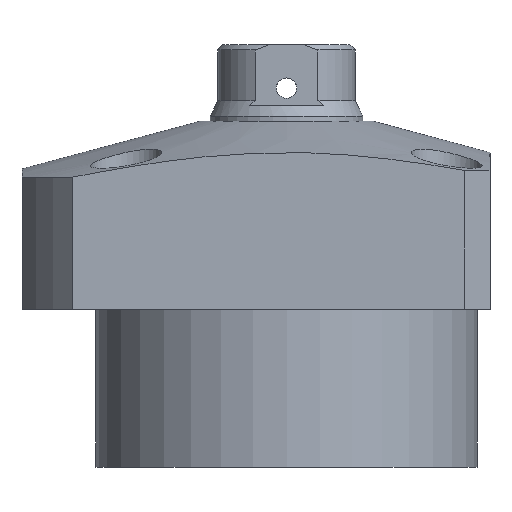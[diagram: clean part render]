
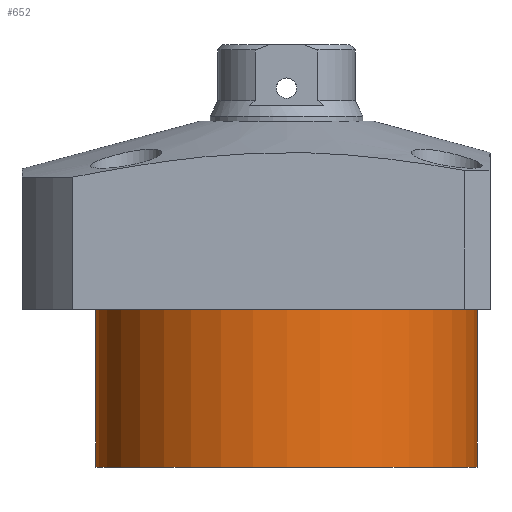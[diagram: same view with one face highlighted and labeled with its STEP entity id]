
A CAD part, front view. The second image highlights one B-rep face of the part: STEP entity #652.
In plain terms, the highlighted cylindrical face has radius 37.5 mm (diameter 75 mm), a partial arc.
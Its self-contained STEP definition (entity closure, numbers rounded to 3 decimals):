
#38 = ORIENTED_EDGE ( 'NONE', *, *, #892, .F. ) ;
#54 = FACE_OUTER_BOUND ( 'NONE', #152, .T. ) ;
#57 = DIRECTION ( 'NONE',  ( -1., 0., 0. ) ) ;
#58 = DIRECTION ( 'NONE',  ( 0., 0., -1. ) ) ;
#152 = EDGE_LOOP ( 'NONE', ( #38, #2353, #1079, #2470 ) ) ;
#255 = LINE ( 'NONE', #2602, #2360 ) ;
#652 = ADVANCED_FACE ( 'NONE', ( #54 ), #2502, .T. ) ;
#663 = CIRCLE ( 'NONE', #1467, 37.5 ) ;
#816 = CARTESIAN_POINT ( 'NONE',  ( 0., 0., -49.5 ) ) ;
#892 = EDGE_CURVE ( 'NONE', #1194, #952, #255, .T. ) ;
#902 = VERTEX_POINT ( 'NONE', #1985 ) ;
#952 = VERTEX_POINT ( 'NONE', #2232 ) ;
#977 = EDGE_CURVE ( 'NONE', #902, #952, #663, .T. ) ;
#1079 = ORIENTED_EDGE ( 'NONE', *, *, #1222, .T. ) ;
#1157 = DIRECTION ( 'NONE',  ( 1., 0., 0. ) ) ;
#1194 = VERTEX_POINT ( 'NONE', #1244 ) ;
#1218 = CARTESIAN_POINT ( 'NONE',  ( 37.5, 0., -49.5 ) ) ;
#1222 = EDGE_CURVE ( 'NONE', #1705, #902, #2609, .T. ) ;
#1244 = CARTESIAN_POINT ( 'NONE',  ( -37.5, 0., -49.5 ) ) ;
#1315 = AXIS2_PLACEMENT_3D ( 'NONE', #2008, #1352, #57 ) ;
#1352 = DIRECTION ( 'NONE',  ( 0., 0., -1. ) ) ;
#1445 = VECTOR ( 'NONE', #2769, 1000. ) ;
#1467 = AXIS2_PLACEMENT_3D ( 'NONE', #1800, #58, #1157 ) ;
#1644 = CIRCLE ( 'NONE', #1315, 37.5 ) ;
#1705 = VERTEX_POINT ( 'NONE', #1218 ) ;
#1800 = CARTESIAN_POINT ( 'NONE',  ( 0., 0., -18.5 ) ) ;
#1904 = CARTESIAN_POINT ( 'NONE',  ( 37.5, 0., -49.5 ) ) ;
#1985 = CARTESIAN_POINT ( 'NONE',  ( 37.5, 0., -18.5 ) ) ;
#2008 = CARTESIAN_POINT ( 'NONE',  ( 0., 0., -49.5 ) ) ;
#2052 = AXIS2_PLACEMENT_3D ( 'NONE', #816, #2786, #2798 ) ;
#2187 = EDGE_CURVE ( 'NONE', #1705, #1194, #1644, .T. ) ;
#2232 = CARTESIAN_POINT ( 'NONE',  ( -37.5, 0., -18.5 ) ) ;
#2353 = ORIENTED_EDGE ( 'NONE', *, *, #2187, .F. ) ;
#2360 = VECTOR ( 'NONE', #2613, 1000. ) ;
#2470 = ORIENTED_EDGE ( 'NONE', *, *, #977, .T. ) ;
#2502 = CYLINDRICAL_SURFACE ( 'NONE', #2052, 37.5 ) ;
#2602 = CARTESIAN_POINT ( 'NONE',  ( -37.5, 0., -49.5 ) ) ;
#2609 = LINE ( 'NONE', #1904, #1445 ) ;
#2613 = DIRECTION ( 'NONE',  ( 0., 0., 1. ) ) ;
#2769 = DIRECTION ( 'NONE',  ( 0., 0., 1. ) ) ;
#2786 = DIRECTION ( 'NONE',  ( 0., 0., 1. ) ) ;
#2798 = DIRECTION ( 'NONE',  ( 1., 0., 0. ) ) ;
